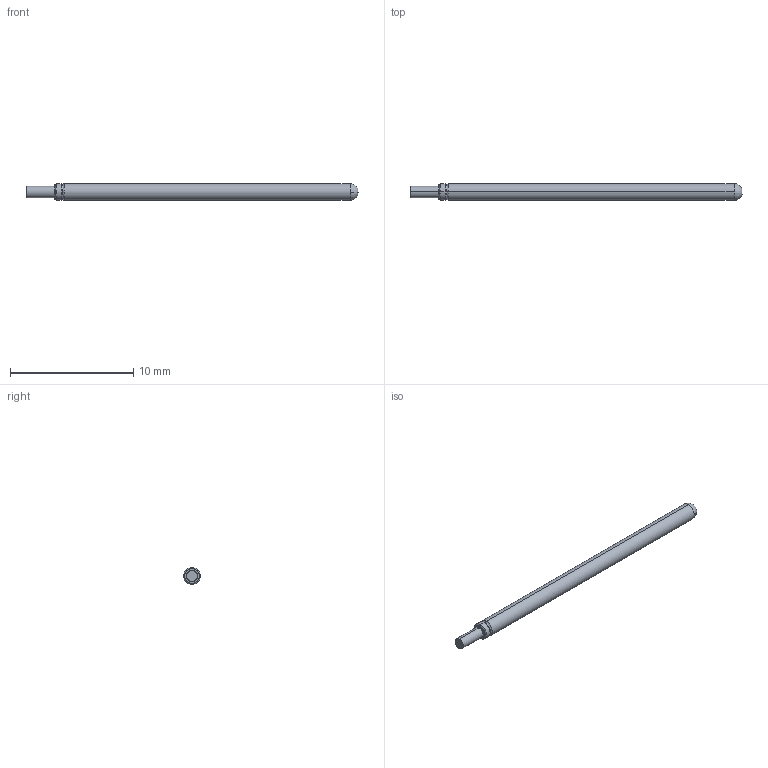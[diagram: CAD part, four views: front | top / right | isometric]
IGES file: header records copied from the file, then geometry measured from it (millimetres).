
Start section: SolidWorks IGES file using analytic representation for surfaces
Global section: file name: Z:\probe solid model mockups\Solidworks models\LTP-25\LTP-25Default Full.IGS; native system: SolidWorks 2006 by SolidWorks Corporation; preprocessor: SolidWorks 2006 by SolidWorks Corporation; author: tsakatani; date: 071214.142905; units: inch
Bounding box: 26.92 x 1.37 x 1.37 mm (x, y, z)
Surface area: 114.4 mm2 (no closed solid volume)
Topology: 0 solids, 0 shells, 19 faces, 132 edges, 132 vertices
Faces by surface type: revolution 12, bspline 7
